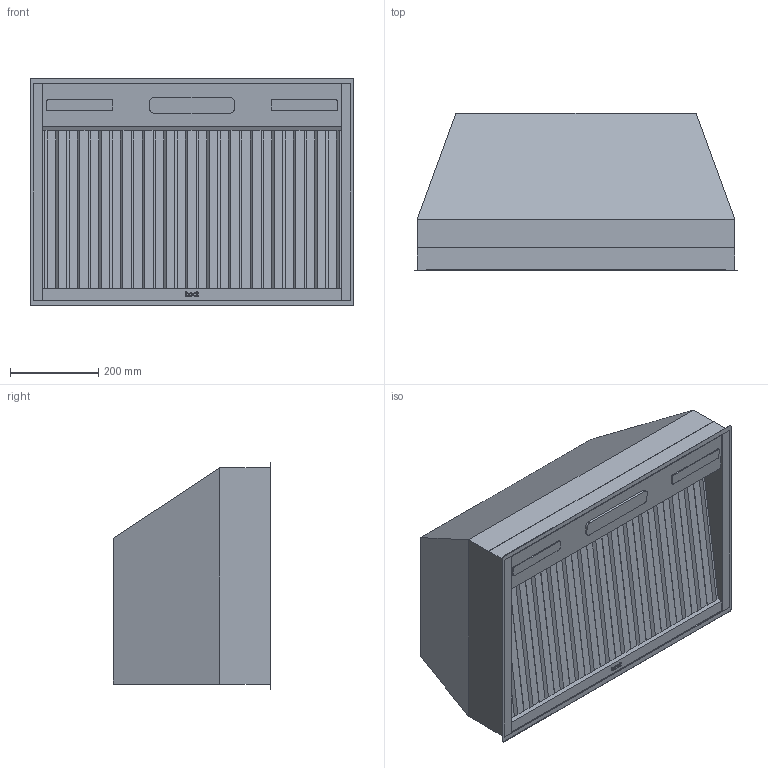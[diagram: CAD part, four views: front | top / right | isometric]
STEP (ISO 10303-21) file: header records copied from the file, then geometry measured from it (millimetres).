
FILE_DESCRIPTION((''),'2;1');
FILE_NAME('HBN33096SS_WEB_CAD_MODEL','2025-04-29T08:03:15',('BoutinM'),(''),'CREO PARAMETRIC BY PTC INC, 2023424','CREO PARAMETRIC BY PTC INC, 2023424','');
FILE_SCHEMA(('CONFIG_CONTROL_DESIGN','SHAPE_APPEARANCE_LAYERS_GROUPS'));
Length unit declared in the file: inch
Products named in the file (1): HBN33096SS_WEB_CAD_MODEL
Bounding box: 732.21 x 357.48 x 514.35 mm (x, y, z)
Volume: 92778451.9 mm3; surface area: 1531366.3 mm2
Topology: 1 solids, 1 shells, 202 faces, 518 edges, 326 vertices
Faces by surface type: plane 173, cylinder 29
Entity records: 8181 total; most frequent: CARTESIAN_POINT 1046, ORIENTED_EDGE 1036, DIRECTION 980, PRESENTATION_STYLE_ASSIGNMENT 544, STYLED_ITEM 519, CURVE_STYLE 518, EDGE_CURVE 518, VECTOR 460
